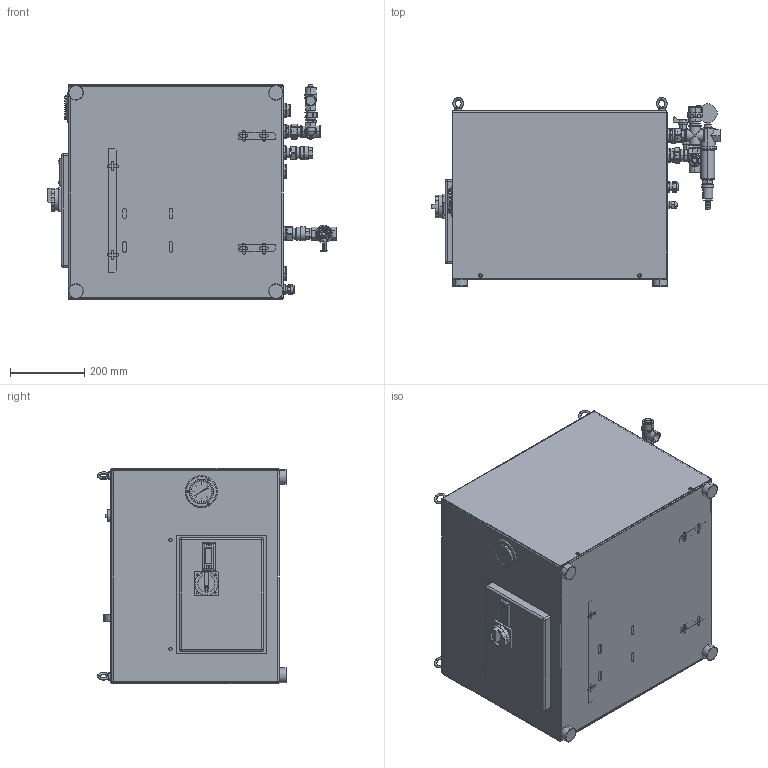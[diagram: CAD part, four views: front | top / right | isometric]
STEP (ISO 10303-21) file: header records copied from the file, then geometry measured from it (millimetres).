
FILE_DESCRIPTION (( 'STEP AP214' ), '1' );
FILE_NAME ('PWW9000.STEP', '2015-11-13T11:32:43', ( '' ), ( '' ), 'SwSTEP 2.0', 'SolidWorks 2015', '' );
FILE_SCHEMA (( 'AUTOMOTIVE_DESIGN' ));
Length unit declared in the file: millimetre
Products named in the file (1): PWW9000
Bounding box: 778.5 x 510.3 x 581.6 mm (x, y, z)
Surface area: 3847144 mm2 (no closed solid volume)
Topology: 0 solids, 89 shells, 1252 faces, 3754 edges, 2574 vertices
Faces by surface type: plane 525, cylinder 496, cone 133, torus 63, bspline 19, sphere 16
Entity records: 59421 total; most frequent: CARTESIAN_POINT 11856, DIRECTION 7208, ORIENTED_EDGE 6374, EDGE_CURVE 3744, AXIS2_PLACEMENT_3D 2667, VERTEX_POINT 2572, VECTOR 1874, LINE 1874
